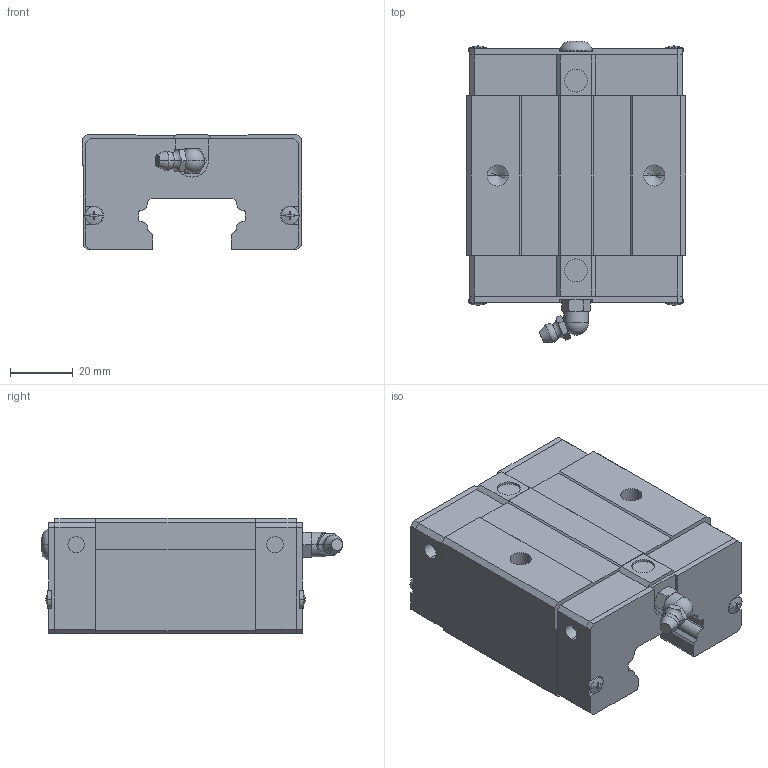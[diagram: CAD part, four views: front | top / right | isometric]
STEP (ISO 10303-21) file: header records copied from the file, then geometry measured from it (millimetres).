
FILE_DESCRIPTION(('no description'),'unknown implementation level');
FILE_NAME('QEH35SA_Z0_H_SS_2.stp',' ',('HIWIN GmbH'),('CADClick - KiM GmbH - www.kimweb.de'),'unknown preprocess','ACIS','unknown authorization');
FILE_SCHEMA(('automotive_design'));
Length unit declared in the file: millimetre
Products named in the file (1): QEH35SA Z0 H SS
Bounding box: 70 x 96.11 x 37 mm (x, y, z)
Volume: 162462.3 mm3; surface area: 26524.6 mm2
Topology: 1 solids, 5 shells, 344 faces, 917 edges, 589 vertices
Faces by surface type: plane 206, cylinder 76, cone 42, torus 18, sphere 2
Entity records: 21250 total; most frequent: CARTESIAN_POINT 2541, STYLED_ITEM 1845, PRESENTATION_STYLE_ASSIGNMENT 1845, COLOUR_RGB 1845, ORIENTED_EDGE 1822, DIRECTION 1716, EDGE_CURVE 911, CURVE_STYLE 911
